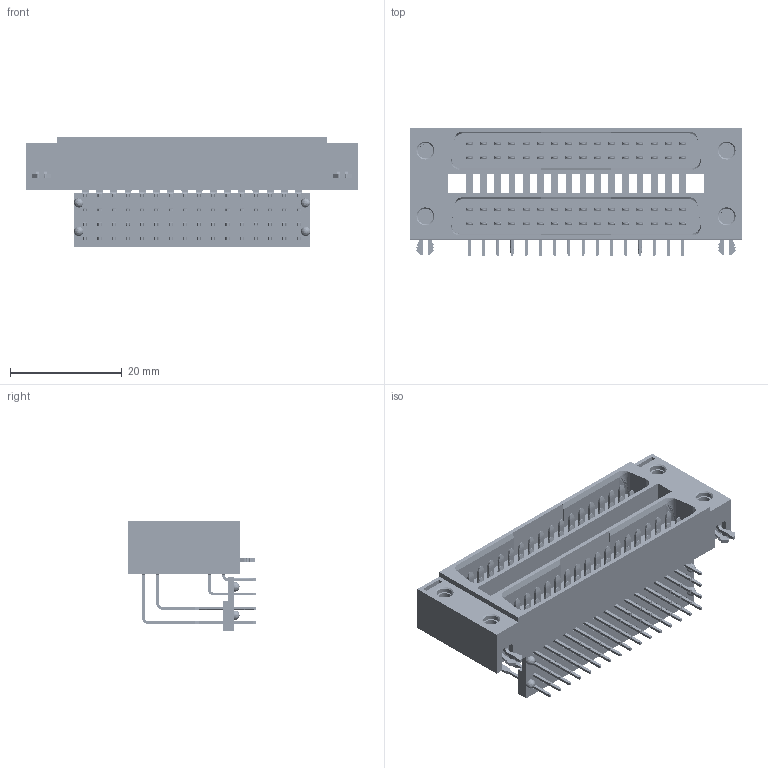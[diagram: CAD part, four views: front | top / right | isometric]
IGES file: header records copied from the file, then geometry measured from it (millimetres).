
Start section: ZWSOFT
Global section: file name: 6340-2XXMRSXMWT01.igs; native system: ZW3D; preprocessor: 1.0; author: ZW3D; organization: ZWSOFT; date: 231019.084632; units: millimetre
Bounding box: 59.32 x 23.01 x 19.66 mm (x, y, z)
Surface area: 15226.7 mm2 (no closed solid volume)
Topology: 0 solids, 0 shells, 8324 faces, 57256 edges, 57164 vertices
Faces by surface type: bspline 8324
